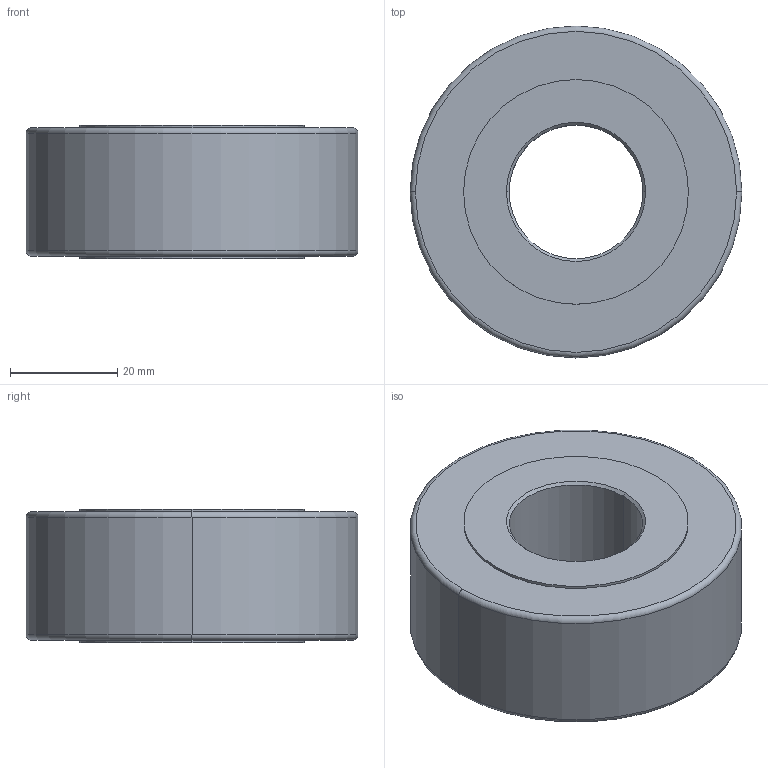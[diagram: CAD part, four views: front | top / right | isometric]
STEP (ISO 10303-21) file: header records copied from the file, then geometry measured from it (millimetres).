
FILE_DESCRIPTION (( 'STEP AP214' ), '1' );
FILE_NAME ('3DNUTR25-62.STEP', '2013-12-18T09:07:46', ( 'usuario' ), ( 'Hewlett-Packard Company' ), 'SwSTEP 2.0', 'SolidWorks 2017', '' );
FILE_SCHEMA (( 'AUTOMOTIVE_DESIGN' ));
Length unit declared in the file: millimetre
Products named in the file (1): 3DNUTR25-62
Bounding box: 62 x 62 x 25 mm (x, y, z)
Volume: 61468.4 mm3; surface area: 11613.1 mm2
Topology: 1 solids, 1 shells, 20 faces, 40 edges, 24 vertices
Faces by surface type: cylinder 8, cone 4, torus 4, plane 4
Entity records: 566 total; most frequent: DIRECTION 110, CARTESIAN_POINT 85, ORIENTED_EDGE 80, AXIS2_PLACEMENT_3D 49, EDGE_CURVE 40, CIRCLE 28, EDGE_LOOP 24, VERTEX_POINT 24
